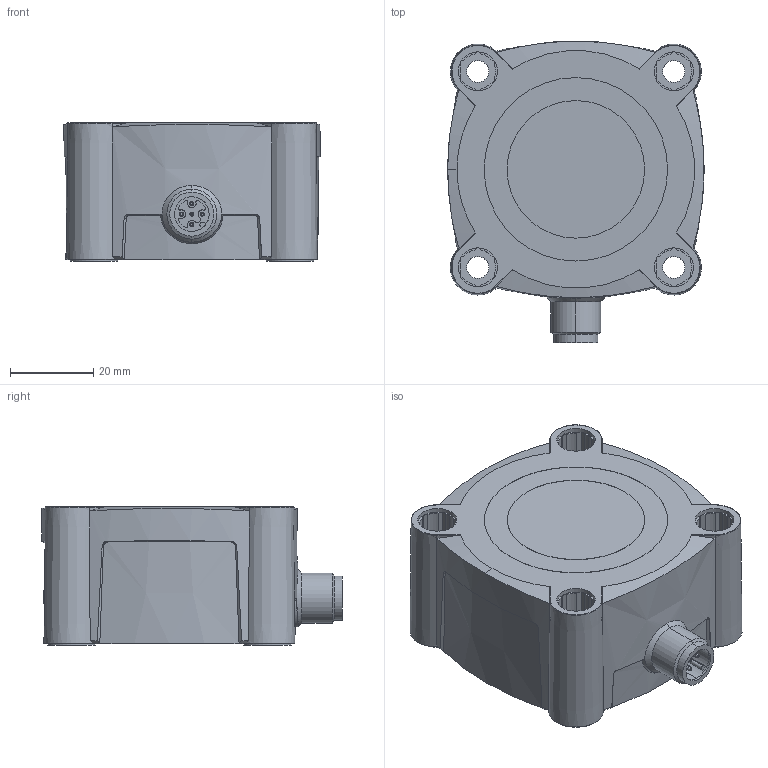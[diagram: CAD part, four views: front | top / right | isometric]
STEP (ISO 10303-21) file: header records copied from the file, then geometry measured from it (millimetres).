
FILE_DESCRIPTION (( 'STEP AP203' ), '1' );
FILE_NAME ('lcs+340_NG.STEP', '2023-02-28T11:16:33', ( '' ), ( '' ), 'SwSTEP 2.0', 'SolidWorks 2021', '' );
FILE_SCHEMA (( 'CONFIG_CONTROL_DESIGN' ));
Length unit declared in the file: millimetre
Products named in the file (1): lcs+340_NG
Bounding box: 61.5 x 72.18 x 33.2 mm (x, y, z)
Volume: 107719.7 mm3; surface area: 18963.7 mm2
Topology: 1 solids, 1 shells, 673 faces, 1726 edges, 1101 vertices
Faces by surface type: plane 262, cylinder 172, bspline 117, cone 70, torus 52
Entity records: 26259 total; most frequent: CARTESIAN_POINT 10594, ORIENTED_EDGE 3452, DIRECTION 2997, EDGE_CURVE 1726, AXIS2_PLACEMENT_3D 1175, VERTEX_POINT 1101, EDGE_LOOP 727, FACE_OUTER_BOUND 673
